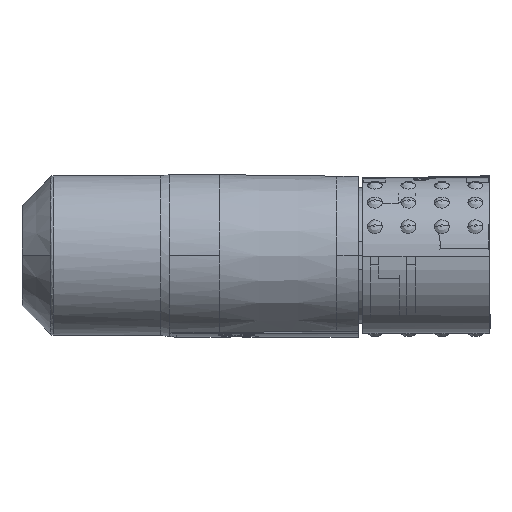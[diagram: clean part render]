
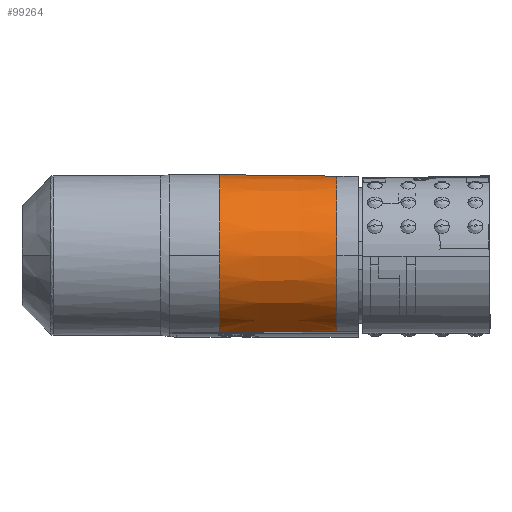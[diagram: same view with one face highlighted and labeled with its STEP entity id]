
A CAD part, top view. The second image highlights one B-rep face of the part: STEP entity #99264.
In plain terms, the highlighted conical face has half-angle 0.728 degrees and reference radius 10.66 mm.
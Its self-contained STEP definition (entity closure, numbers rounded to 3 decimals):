
#247 = CARTESIAN_POINT ( 'NONE',  ( 61.165, -3.316, 10.678 ) ) ;
#4603 = CARTESIAN_POINT ( 'NONE',  ( 76.895, 5.059, 0. ) ) ;
#4752 = CARTESIAN_POINT ( 'NONE',  ( 76.895, 4.703, 2.79 ) ) ;
#5228 = CARTESIAN_POINT ( 'NONE',  ( 67.168, -15.86, 3.325 ) ) ;
#6202 = CARTESIAN_POINT ( 'NONE',  ( 76.895, 5.059, 0. ) ) ;
#6242 = CARTESIAN_POINT ( 'NONE',  ( 61.165, -11.088, 9.441 ) ) ;
#6476 = DIRECTION ( 'NONE',  ( 0., 1., 0. ) ) ;
#6653 = CARTESIAN_POINT ( 'NONE',  ( 61.165, 4.4, 4.384 ) ) ;
#6736 = CARTESIAN_POINT ( 'NONE',  ( 76.895, -7.828, 10.484 ) ) ;
#7948 = B_SPLINE_CURVE_WITH_KNOTS ( 'NONE', 3,
 ( #21399, #23070, #111159, #39233, #30560, #12642, #56616, #110593, #101387, #47951 ),
 .UNSPECIFIED., .F., .F.,
 ( 4, 2, 2, 2, 4 ),
 ( 0.75, 0.8, 0.85, 0.9, 0.95 ),
 .UNSPECIFIED. ) ;
#12642 = CARTESIAN_POINT ( 'NONE',  ( 76.895, 1.553, 7.98 ) ) ;
#14000 = VECTOR ( 'NONE', #24197, 1000. ) ;
#15061 = CARTESIAN_POINT ( 'NONE',  ( 70.732, -15.813, 3.322 ) ) ;
#16074 = CARTESIAN_POINT ( 'NONE',  ( 61.165, -13.748, 7.272 ) ) ;
#16555 = CARTESIAN_POINT ( 'NONE',  ( 76.895, -10.952, 9.287 ) ) ;
#17130 = CARTESIAN_POINT ( 'NONE',  ( 76.895, -14.868, 5.386 ) ) ;
#17405 = ORIENTED_EDGE ( 'NONE', *, *, #37222, .T. ) ;
#18205 = CARTESIAN_POINT ( 'NONE',  ( 61.165, 1.73, 8.093 ) ) ;
#19711 = ORIENTED_EDGE ( 'NONE', *, *, #27917, .F. ) ;
#19982 = ORIENTED_EDGE ( 'NONE', *, *, #25938, .F. ) ;
#20381 = EDGE_CURVE ( 'NONE', #86019, #102807, #7948, .T. ) ;
#20858 = B_SPLINE_CURVE_WITH_KNOTS ( 'NONE', 3,
 ( #78067, #58923, #93856, #16074, #85686, #6242, #31691, #41502, #76891, #102512 ),
 .UNSPECIFIED., .F., .F.,
 ( 4, 2, 2, 2, 4 ),
 ( 0., 0.056, 0.111, 0.167, 0.223 ),
 .UNSPECIFIED. ) ;
#21311 = AXIS2_PLACEMENT_3D ( 'NONE', #91252, #42338, #6476 ) ;
#21399 = CARTESIAN_POINT ( 'NONE',  ( 76.895, -5.601, 10.66 ) ) ;
#23070 = CARTESIAN_POINT ( 'NONE',  ( 76.895, -4.488, 10.66 ) ) ;
#23303 = CARTESIAN_POINT ( 'NONE',  ( 76.895, 5.059, 0. ) ) ;
#24165 = CARTESIAN_POINT ( 'NONE',  ( 76.895, -6.715, 10.66 ) ) ;
#24197 = DIRECTION ( 'NONE',  ( -1., 0.013, 0. ) ) ;
#25938 = EDGE_CURVE ( 'NONE', #101018, #108657, #30715, .T. ) ;
#27555 = CARTESIAN_POINT ( 'NONE',  ( 72.786, -15.784, 3.325 ) ) ;
#27917 = EDGE_CURVE ( 'NONE', #86019, #112353, #89984, .T. ) ;
#30560 = CARTESIAN_POINT ( 'NONE',  ( 76.895, -0.251, 9.287 ) ) ;
#30715 = B_SPLINE_CURVE_WITH_KNOTS ( 'NONE', 3,
 ( #60049, #34545, #96129, #43781 ),
 .UNSPECIFIED., .F., .F.,
 ( 4, 4 ),
 ( 0., 0.5 ),
 .UNSPECIFIED. ) ;
#31691 = CARTESIAN_POINT ( 'NONE',  ( 61.165, -10.058, 9.969 ) ) ;
#32627 = VERTEX_POINT ( 'NONE', #111402 ) ;
#34545 = CARTESIAN_POINT ( 'NONE',  ( 61.165, 5.085, 2.232 ) ) ;
#35814 = EDGE_CURVE ( 'NONE', #32627, #79392, #76571, .T. ) ;
#37222 = EDGE_CURVE ( 'NONE', #101018, #105880, #101532, .T. ) ;
#39233 = CARTESIAN_POINT ( 'NONE',  ( 76.895, -1.255, 9.797 ) ) ;
#40013 = CARTESIAN_POINT ( 'NONE',  ( 76.895, 5.014, 1.127 ) ) ;
#41502 = CARTESIAN_POINT ( 'NONE',  ( 61.165, -7.886, 10.678 ) ) ;
#41916 = CARTESIAN_POINT ( 'NONE',  ( 61.165, 3.88, 5.417 ) ) ;
#42338 = DIRECTION ( 'NONE',  ( -1., 0., 0. ) ) ;
#43781 = CARTESIAN_POINT ( 'NONE',  ( 61.165, 5.259, 0. ) ) ;
#47951 = CARTESIAN_POINT ( 'NONE',  ( 76.895, 4.527, 3.325 ) ) ;
#48098 = CARTESIAN_POINT ( 'NONE',  ( 76.895, -5.601, 10.66 ) ) ;
#48192 = FACE_OUTER_BOUND ( 'NONE', #68694, .T. ) ;
#52444 = CARTESIAN_POINT ( 'NONE',  ( 76.895, -15.382, 4.383 ) ) ;
#52930 = CARTESIAN_POINT ( 'NONE',  ( 61.165, -1.144, 9.969 ) ) ;
#56616 = CARTESIAN_POINT ( 'NONE',  ( 76.895, 2.352, 7.185 ) ) ;
#58847 = CARTESIAN_POINT ( 'NONE',  ( 76.895, -9.947, 9.797 ) ) ;
#58923 = CARTESIAN_POINT ( 'NONE',  ( 61.165, -15.603, 4.384 ) ) ;
#59427 = CARTESIAN_POINT ( 'NONE',  ( 76.895, -5.601, 10.66 ) ) ;
#60049 = CARTESIAN_POINT ( 'NONE',  ( 61.165, 4.747, 3.295 ) ) ;
#61638 = CARTESIAN_POINT ( 'NONE',  ( 61.165, -4.459, 10.86 ) ) ;
#66923 = B_SPLINE_CURVE_WITH_KNOTS ( 'NONE', 3,
 ( #90767, #27555, #81378, #106412 ),
 .UNSPECIFIED., .F., .F.,
 ( 4, 4 ),
 ( 0., 1. ),
 .UNSPECIFIED. ) ;
#68160 = CARTESIAN_POINT ( 'NONE',  ( 76.895, -15.729, 3.325 ) ) ;
#68694 = EDGE_LOOP ( 'NONE', ( #83428, #71585, #19982, #17405, #88017, #73002, #98180, #19711, #101744 ) ) ;
#70916 = EDGE_CURVE ( 'NONE', #32627, #105880, #20858, .T. ) ;
#71585 = ORIENTED_EDGE ( 'NONE', *, *, #84569, .T. ) ;
#73002 = ORIENTED_EDGE ( 'NONE', *, *, #35814, .T. ) ;
#75067 = CARTESIAN_POINT ( 'NONE',  ( 61.173, -5.601, 10.86 ) ) ;
#76111 = CARTESIAN_POINT ( 'NONE',  ( 61.165, 4.747, 3.295 ) ) ;
#76571 = B_SPLINE_CURVE_WITH_KNOTS ( 'NONE', 3,
 ( #102652, #84631, #5228, #15061 ),
 .UNSPECIFIED., .F., .F.,
 ( 4, 4 ),
 ( 0., 1. ),
 .UNSPECIFIED. ) ;
#76891 = CARTESIAN_POINT ( 'NONE',  ( 61.165, -6.744, 10.86 ) ) ;
#77984 = CARTESIAN_POINT ( 'NONE',  ( 76.895, -12.756, 7.98 ) ) ;
#78067 = CARTESIAN_POINT ( 'NONE',  ( 61.165, -15.949, 3.295 ) ) ;
#79392 = VERTEX_POINT ( 'NONE', #110199 ) ;
#81326 = CARTESIAN_POINT ( 'NONE',  ( 61.173, -5.601, 10.86 ) ) ;
#81378 = CARTESIAN_POINT ( 'NONE',  ( 74.841, -15.757, 3.325 ) ) ;
#82510 = CONICAL_SURFACE ( 'NONE', #21311, 10.66, 0.013 ) ;
#83428 = ORIENTED_EDGE ( 'NONE', *, *, #99134, .T. ) ;
#84134 = CARTESIAN_POINT ( 'NONE',  ( 76.895, 4.527, 3.325 ) ) ;
#84422 = CARTESIAN_POINT ( 'NONE',  ( 76.895, -15.729, 3.325 ) ) ;
#84569 = EDGE_CURVE ( 'NONE', #113637, #108657, #96674, .T. ) ;
#84631 = CARTESIAN_POINT ( 'NONE',  ( 63.977, -15.905, 3.315 ) ) ;
#85686 = CARTESIAN_POINT ( 'NONE',  ( 61.165, -12.933, 8.093 ) ) ;
#86019 = VERTEX_POINT ( 'NONE', #48098 ) ;
#86165 = CARTESIAN_POINT ( 'NONE',  ( 76.895, -13.554, 7.185 ) ) ;
#88017 = ORIENTED_EDGE ( 'NONE', *, *, #70916, .F. ) ;
#88988 = CARTESIAN_POINT ( 'NONE',  ( 61.165, -0.115, 9.441 ) ) ;
#89984 = B_SPLINE_CURVE_WITH_KNOTS ( 'NONE', 3,
 ( #59427, #24165, #6736, #58847, #16555, #77984, #86165, #17130, #52444, #68160 ),
 .UNSPECIFIED., .F., .F.,
 ( 4, 2, 2, 2, 4 ),
 ( 0., 0.25, 0.5, 0.75, 1. ),
 .UNSPECIFIED. ) ;
#90767 = CARTESIAN_POINT ( 'NONE',  ( 70.732, -15.813, 3.322 ) ) ;
#91252 = CARTESIAN_POINT ( 'NONE',  ( 76.895, -5.601, 0. ) ) ;
#91833 = CARTESIAN_POINT ( 'NONE',  ( 61.165, 5.259, 0. ) ) ;
#93856 = CARTESIAN_POINT ( 'NONE',  ( 61.165, -15.083, 5.417 ) ) ;
#94854 = CARTESIAN_POINT ( 'NONE',  ( 61.165, 4.747, 3.295 ) ) ;
#95420 = CARTESIAN_POINT ( 'NONE',  ( 61.165, 2.545, 7.272 ) ) ;
#96129 = CARTESIAN_POINT ( 'NONE',  ( 61.165, 5.259, 1.116 ) ) ;
#96293 = CARTESIAN_POINT ( 'NONE',  ( 76.895, 4.527, 3.325 ) ) ;
#96674 = LINE ( 'NONE', #6202, #14000 ) ;
#97617 = EDGE_CURVE ( 'NONE', #79392, #112353, #66923, .T. ) ;
#98180 = ORIENTED_EDGE ( 'NONE', *, *, #97617, .T. ) ;
#99134 = EDGE_CURVE ( 'NONE', #102807, #113637, #100048, .T. ) ;
#99264 = ADVANCED_FACE ( 'NONE', ( #48192 ), #82510, .T. ) ;
#100048 = B_SPLINE_CURVE_WITH_KNOTS ( 'NONE', 3,
 ( #84134, #4752, #111379, #40013, #102173, #23303 ),
 .UNSPECIFIED., .F., .F.,
 ( 4, 2, 4 ),
 ( 0.95, 0.975, 1. ),
 .UNSPECIFIED. ) ;
#101018 = VERTEX_POINT ( 'NONE', #76111 ) ;
#101387 = CARTESIAN_POINT ( 'NONE',  ( 76.895, 4.18, 4.383 ) ) ;
#101532 = B_SPLINE_CURVE_WITH_KNOTS ( 'NONE', 3,
 ( #94854, #6653, #41916, #95420, #18205, #88988, #52930, #247, #61638, #81326 ),
 .UNSPECIFIED., .F., .F.,
 ( 4, 2, 2, 2, 4 ),
 ( 0.549, 0.599, 0.65, 0.7, 0.75 ),
 .UNSPECIFIED. ) ;
#101744 = ORIENTED_EDGE ( 'NONE', *, *, #20381, .T. ) ;
#102173 = CARTESIAN_POINT ( 'NONE',  ( 76.895, 5.059, 0.564 ) ) ;
#102512 = CARTESIAN_POINT ( 'NONE',  ( 61.173, -5.601, 10.86 ) ) ;
#102652 = CARTESIAN_POINT ( 'NONE',  ( 61.165, -15.949, 3.295 ) ) ;
#102807 = VERTEX_POINT ( 'NONE', #96293 ) ;
#105880 = VERTEX_POINT ( 'NONE', #75067 ) ;
#106412 = CARTESIAN_POINT ( 'NONE',  ( 76.895, -15.729, 3.325 ) ) ;
#108657 = VERTEX_POINT ( 'NONE', #91833 ) ;
#110199 = CARTESIAN_POINT ( 'NONE',  ( 70.732, -15.813, 3.322 ) ) ;
#110593 = CARTESIAN_POINT ( 'NONE',  ( 76.895, 3.665, 5.386 ) ) ;
#111159 = CARTESIAN_POINT ( 'NONE',  ( 76.895, -3.374, 10.484 ) ) ;
#111379 = CARTESIAN_POINT ( 'NONE',  ( 76.895, 4.836, 2.24 ) ) ;
#111402 = CARTESIAN_POINT ( 'NONE',  ( 61.165, -15.949, 3.295 ) ) ;
#112353 = VERTEX_POINT ( 'NONE', #84422 ) ;
#113637 = VERTEX_POINT ( 'NONE', #4603 ) ;
